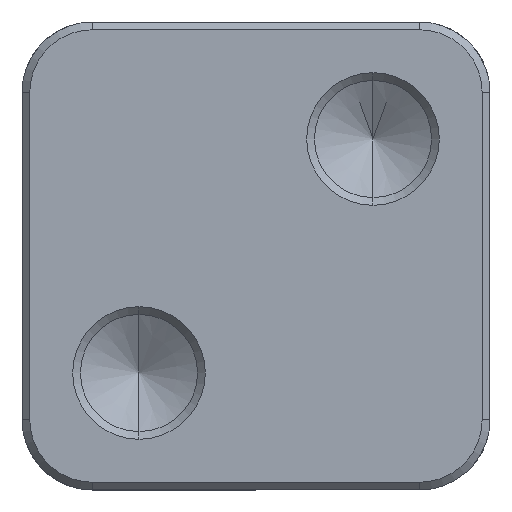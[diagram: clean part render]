
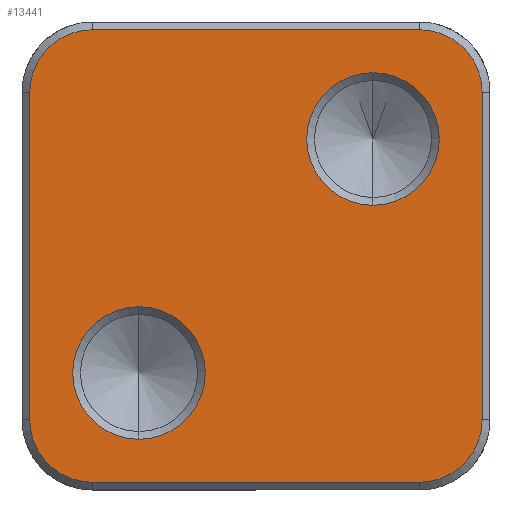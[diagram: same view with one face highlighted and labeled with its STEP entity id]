
A CAD part, front view. The second image highlights one B-rep face of the part: STEP entity #13441.
In plain terms, the highlighted planar face has unit normal (0, -1, 0).
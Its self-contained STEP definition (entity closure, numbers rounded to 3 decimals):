
#205 = EDGE_CURVE ( 'NONE', #12386, #1267, #12713, .T. ) ;
#234 = CARTESIAN_POINT ( 'NONE',  ( -4.833, 0., -3.503 ) ) ;
#601 = EDGE_CURVE ( 'NONE', #12283, #10551, #3903, .T. ) ;
#617 = AXIS2_PLACEMENT_3D ( 'NONE', #4974, #9734, #14501 ) ;
#965 = CARTESIAN_POINT ( 'NONE',  ( -3.5, 0., 4.831 ) ) ;
#1031 = CARTESIAN_POINT ( 'NONE',  ( 2.5, 0., 2.498 ) ) ;
#1077 = CARTESIAN_POINT ( 'NONE',  ( -2.5, 0., -2.503 ) ) ;
#1179 = EDGE_CURVE ( 'NONE', #8361, #5728, #8162, .T. ) ;
#1267 = VERTEX_POINT ( 'NONE', #7222 ) ;
#1407 = EDGE_CURVE ( 'NONE', #12314, #1761, #9970, .T. ) ;
#1595 = CIRCLE ( 'NONE', #11862, 1.333 ) ;
#1751 = VECTOR ( 'NONE', #10592, 1000. ) ;
#1761 = VERTEX_POINT ( 'NONE', #6783 ) ;
#1766 = EDGE_CURVE ( 'NONE', #1761, #13016, #15157, .T. ) ;
#1971 = DIRECTION ( 'NONE',  ( 0., -1., 0. ) ) ;
#1977 = DIRECTION ( 'NONE',  ( 0., 1., 0. ) ) ;
#2040 = CARTESIAN_POINT ( 'NONE',  ( 5., 0., -4.836 ) ) ;
#2288 = EDGE_CURVE ( 'NONE', #11983, #10348, #12776, .T. ) ;
#2695 = EDGE_CURVE ( 'NONE', #13016, #8361, #6493, .T. ) ;
#2830 = DIRECTION ( 'NONE',  ( 0., 0., -1. ) ) ;
#2966 = EDGE_LOOP ( 'NONE', ( #5569, #3449 ) ) ;
#2990 = CARTESIAN_POINT ( 'NONE',  ( 3.5, 0., 3.498 ) ) ;
#3073 = CARTESIAN_POINT ( 'NONE',  ( 4.833, 0., -3.503 ) ) ;
#3449 = ORIENTED_EDGE ( 'NONE', *, *, #9257, .T. ) ;
#3555 = DIRECTION ( 'NONE',  ( 0., -1., 0. ) ) ;
#3886 = DIRECTION ( 'NONE',  ( 0., -1., 0. ) ) ;
#3903 = LINE ( 'NONE', #10062, #15209 ) ;
#4012 = DIRECTION ( 'NONE',  ( 0., 0., 1. ) ) ;
#4284 = CARTESIAN_POINT ( 'NONE',  ( 2.5, 0., 1.081 ) ) ;
#4351 = ORIENTED_EDGE ( 'NONE', *, *, #2288, .T. ) ;
#4455 = CARTESIAN_POINT ( 'NONE',  ( -4.833, 0., -5.003 ) ) ;
#4767 = EDGE_CURVE ( 'NONE', #14989, #12314, #10234, .T. ) ;
#4858 = AXIS2_PLACEMENT_3D ( 'NONE', #5965, #3555, #12927 ) ;
#4974 = CARTESIAN_POINT ( 'NONE',  ( -2.5, 0., -2.503 ) ) ;
#5569 = ORIENTED_EDGE ( 'NONE', *, *, #205, .T. ) ;
#5728 = VERTEX_POINT ( 'NONE', #13654 ) ;
#5965 = CARTESIAN_POINT ( 'NONE',  ( 5., 0., -5.003 ) ) ;
#6446 = CARTESIAN_POINT ( 'NONE',  ( -3.5, 0., 3.498 ) ) ;
#6493 = CIRCLE ( 'NONE', #15242, 1.333 ) ;
#6783 = CARTESIAN_POINT ( 'NONE',  ( -3.5, 0., -4.836 ) ) ;
#6784 = EDGE_CURVE ( 'NONE', #10348, #11983, #14820, .T. ) ;
#6882 = ORIENTED_EDGE ( 'NONE', *, *, #1407, .T. ) ;
#6915 = DIRECTION ( 'NONE',  ( 0., 0., -1. ) ) ;
#6993 = AXIS2_PLACEMENT_3D ( 'NONE', #1031, #1977, #12601 ) ;
#7098 = CIRCLE ( 'NONE', #9851, 1.333 ) ;
#7222 = CARTESIAN_POINT ( 'NONE',  ( 2.5, 0., 3.914 ) ) ;
#7264 = CARTESIAN_POINT ( 'NONE',  ( 3.5, 0., -4.836 ) ) ;
#7530 = ORIENTED_EDGE ( 'NONE', *, *, #6784, .T. ) ;
#7620 = DIRECTION ( 'NONE',  ( 0., 0., 1. ) ) ;
#7628 = ORIENTED_EDGE ( 'NONE', *, *, #1179, .T. ) ;
#7803 = ORIENTED_EDGE ( 'NONE', *, *, #10706, .T. ) ;
#7992 = EDGE_LOOP ( 'NONE', ( #4351, #7530 ) ) ;
#7993 = DIRECTION ( 'NONE',  ( 0., 0., 1. ) ) ;
#8033 = DIRECTION ( 'NONE',  ( 0., 0., -1. ) ) ;
#8161 = ORIENTED_EDGE ( 'NONE', *, *, #2695, .T. ) ;
#8162 = LINE ( 'NONE', #15281, #1751 ) ;
#8263 = CARTESIAN_POINT ( 'NONE',  ( 3.5, 0., 4.831 ) ) ;
#8361 = VERTEX_POINT ( 'NONE', #3073 ) ;
#8491 = CIRCLE ( 'NONE', #6993, 1.417 ) ;
#9231 = ORIENTED_EDGE ( 'NONE', *, *, #10238, .T. ) ;
#9257 = EDGE_CURVE ( 'NONE', #1267, #12386, #8491, .T. ) ;
#9264 = DIRECTION ( 'NONE',  ( 0., 1., 0. ) ) ;
#9721 = VECTOR ( 'NONE', #11563, 1000. ) ;
#9734 = DIRECTION ( 'NONE',  ( 0., 1., 0. ) ) ;
#9851 = AXIS2_PLACEMENT_3D ( 'NONE', #6446, #3886, #7620 ) ;
#9970 = CIRCLE ( 'NONE', #13971, 1.333 ) ;
#10047 = CARTESIAN_POINT ( 'NONE',  ( -4.833, 0., 3.498 ) ) ;
#10062 = CARTESIAN_POINT ( 'NONE',  ( 5., 0., 4.831 ) ) ;
#10174 = DIRECTION ( 'NONE',  ( 0., -1., 0. ) ) ;
#10234 = LINE ( 'NONE', #4455, #14837 ) ;
#10238 = EDGE_CURVE ( 'NONE', #10551, #14989, #7098, .T. ) ;
#10276 = AXIS2_PLACEMENT_3D ( 'NONE', #1077, #9264, #6915 ) ;
#10348 = VERTEX_POINT ( 'NONE', #13161 ) ;
#10551 = VERTEX_POINT ( 'NONE', #965 ) ;
#10576 = PLANE ( 'NONE',  #4858 ) ;
#10592 = DIRECTION ( 'NONE',  ( 0., 0., 1. ) ) ;
#10659 = FACE_BOUND ( 'NONE', #7992, .T. ) ;
#10706 = EDGE_CURVE ( 'NONE', #5728, #12283, #1595, .T. ) ;
#10709 = ORIENTED_EDGE ( 'NONE', *, *, #1766, .T. ) ;
#11197 = CARTESIAN_POINT ( 'NONE',  ( 3.5, 0., -3.503 ) ) ;
#11563 = DIRECTION ( 'NONE',  ( 1., 0., 0. ) ) ;
#11599 = CARTESIAN_POINT ( 'NONE',  ( -3.5, 0., -3.503 ) ) ;
#11862 = AXIS2_PLACEMENT_3D ( 'NONE', #2990, #1971, #14772 ) ;
#11983 = VERTEX_POINT ( 'NONE', #12151 ) ;
#12151 = CARTESIAN_POINT ( 'NONE',  ( -2.5, 0., -3.92 ) ) ;
#12277 = ORIENTED_EDGE ( 'NONE', *, *, #601, .T. ) ;
#12283 = VERTEX_POINT ( 'NONE', #8263 ) ;
#12314 = VERTEX_POINT ( 'NONE', #234 ) ;
#12334 = DIRECTION ( 'NONE',  ( -1., 0., 0. ) ) ;
#12386 = VERTEX_POINT ( 'NONE', #4284 ) ;
#12601 = DIRECTION ( 'NONE',  ( 0., 0., -1. ) ) ;
#12713 = CIRCLE ( 'NONE', #14959, 1.417 ) ;
#12776 = CIRCLE ( 'NONE', #10276, 1.417 ) ;
#12845 = DIRECTION ( 'NONE',  ( 0., -1., 0. ) ) ;
#12927 = DIRECTION ( 'NONE',  ( 0., 0., -1. ) ) ;
#13016 = VERTEX_POINT ( 'NONE', #7264 ) ;
#13161 = CARTESIAN_POINT ( 'NONE',  ( -2.5, 0., -1.086 ) ) ;
#13372 = CARTESIAN_POINT ( 'NONE',  ( 2.5, 0., 2.498 ) ) ;
#13441 = ADVANCED_FACE ( 'NONE', ( #15348, #10659, #15431 ), #10576, .T. ) ;
#13654 = CARTESIAN_POINT ( 'NONE',  ( 4.833, 0., 3.498 ) ) ;
#13683 = DIRECTION ( 'NONE',  ( 0., 1., 0. ) ) ;
#13971 = AXIS2_PLACEMENT_3D ( 'NONE', #11599, #12845, #7993 ) ;
#14451 = EDGE_LOOP ( 'NONE', ( #9231, #14802, #6882, #10709, #8161, #7628, #7803, #12277 ) ) ;
#14501 = DIRECTION ( 'NONE',  ( 0., 0., -1. ) ) ;
#14772 = DIRECTION ( 'NONE',  ( 0., 0., 1. ) ) ;
#14802 = ORIENTED_EDGE ( 'NONE', *, *, #4767, .T. ) ;
#14820 = CIRCLE ( 'NONE', #617, 1.417 ) ;
#14837 = VECTOR ( 'NONE', #8033, 1000. ) ;
#14959 = AXIS2_PLACEMENT_3D ( 'NONE', #13372, #13683, #2830 ) ;
#14989 = VERTEX_POINT ( 'NONE', #10047 ) ;
#15157 = LINE ( 'NONE', #2040, #9721 ) ;
#15209 = VECTOR ( 'NONE', #12334, 1000. ) ;
#15242 = AXIS2_PLACEMENT_3D ( 'NONE', #11197, #10174, #4012 ) ;
#15281 = CARTESIAN_POINT ( 'NONE',  ( 4.833, 0., -5.003 ) ) ;
#15348 = FACE_OUTER_BOUND ( 'NONE', #14451, .T. ) ;
#15431 = FACE_BOUND ( 'NONE', #2966, .T. ) ;
